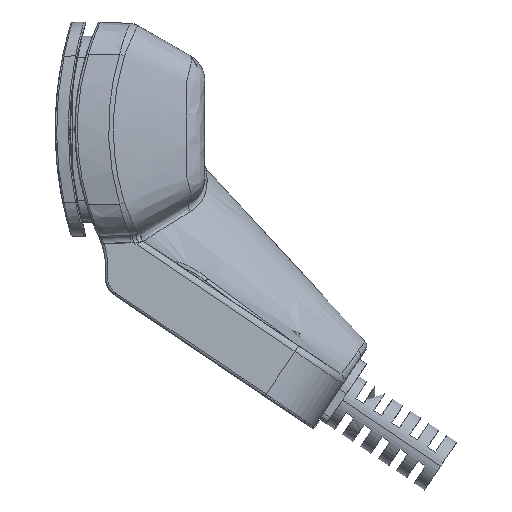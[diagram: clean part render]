
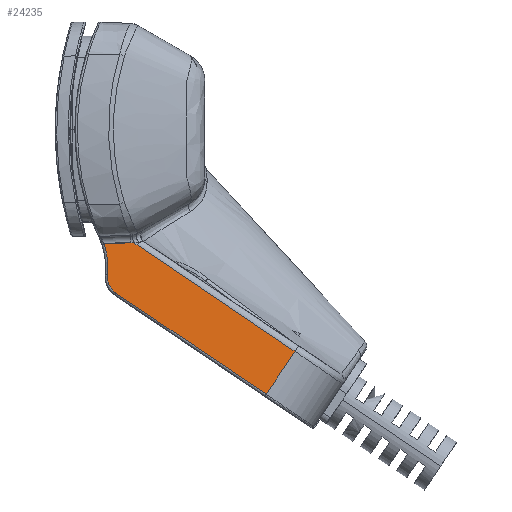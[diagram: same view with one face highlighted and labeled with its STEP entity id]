
A CAD part, left-side view. The second image highlights one B-rep face of the part: STEP entity #24235.
In plain terms, the highlighted planar face has unit normal (-0.997, -0.043, 0.065).
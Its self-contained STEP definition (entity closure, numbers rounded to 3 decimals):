
#1072 = VERTEX_POINT ( 'NONE', #18913 ) ;
#1806 = ORIENTED_EDGE ( 'NONE', *, *, #15729, .T. ) ;
#1976 = VERTEX_POINT ( 'NONE', #38825 ) ;
#3292 = EDGE_CURVE ( 'NONE', #43772, #1072, #6370, .T. ) ;
#3517 = EDGE_CURVE ( 'NONE', #1976, #46646, #48778, .T. ) ;
#4847 = CARTESIAN_POINT ( 'NONE',  ( -42.416, -7.694, -15.406 ) ) ;
#5289 = EDGE_CURVE ( 'NONE', #11825, #43772, #25187, .T. ) ;
#5478 = AXIS2_PLACEMENT_3D ( 'NONE', #56320, #9832, #33566 ) ;
#6160 = CARTESIAN_POINT ( 'NONE',  ( -42.975, -4.836, -22.108 ) ) ;
#6370 = LINE ( 'NONE', #21491, #50970 ) ;
#6697 = CARTESIAN_POINT ( 'NONE',  ( -42.43, -7.851, -15.721 ) ) ;
#9832 = DIRECTION ( 'NONE',  ( 0.997, 0.044, -0.065 ) ) ;
#10369 = CARTESIAN_POINT ( 'NONE',  ( -42.863, -4.511, -20.16 ) ) ;
#10705 = CARTESIAN_POINT ( 'NONE',  ( -42.436, -7.722, -15.726 ) ) ;
#11825 = VERTEX_POINT ( 'NONE', #23547 ) ;
#13620 = ORIENTED_EDGE ( 'NONE', *, *, #3517, .T. ) ;
#15729 = EDGE_CURVE ( 'NONE', #59058, #11825, #24361, .T. ) ;
#17010 = DIRECTION ( 'NONE',  ( 0., -0.829, -0.559 ) ) ;
#17445 = ORIENTED_EDGE ( 'NONE', *, *, #23790, .T. ) ;
#17884 = B_SPLINE_CURVE_WITH_KNOTS ( 'NONE', 3,
 ( #56390, #20368, #6697, #10705 ),
 .UNSPECIFIED., .F., .F.,
 ( 4, 4 ),
 ( 0., 0. ),
 .UNSPECIFIED. ) ;
#18913 = CARTESIAN_POINT ( 'NONE',  ( -42.975, -26.492, -36.715 ) ) ;
#19215 = DIRECTION ( 'NONE',  ( -0.046, 0.998, -0.044 ) ) ;
#19249 = VECTOR ( 'NONE', #19215, 1000. ) ;
#20368 = CARTESIAN_POINT ( 'NONE',  ( -42.423, -7.979, -15.707 ) ) ;
#21491 = CARTESIAN_POINT ( 'NONE',  ( -42.975, -26.492, -36.715 ) ) ;
#22975 = DIRECTION ( 'NONE',  ( 0., 0.829, 0.559 ) ) ;
#23547 = CARTESIAN_POINT ( 'NONE',  ( -42.863, -4.511, -20.16 ) ) ;
#23790 = EDGE_CURVE ( 'NONE', #59269, #23998, #17884, .T. ) ;
#23998 = VERTEX_POINT ( 'NONE', #32374 ) ;
#24184 = ORIENTED_EDGE ( 'NONE', *, *, #24753, .T. ) ;
#24235 = ADVANCED_FACE ( 'NONE', ( #25796 ), #33171, .F. ) ;
#24255 = VECTOR ( 'NONE', #22975, 1000. ) ;
#24361 =( BOUNDED_CURVE ( )  B_SPLINE_CURVE ( 3, ( #41805, #27760, #59724, #36571 ),
 .UNSPECIFIED., .F., .F. ) 
 B_SPLINE_CURVE_WITH_KNOTS ( ( 4, 4 ),
 ( 0.662, 1.082 ),
 .UNSPECIFIED. ) 
 CURVE ( )  GEOMETRIC_REPRESENTATION_ITEM ( )  RATIONAL_B_SPLINE_CURVE ( ( 1., 0.985, 0.985, 1. ) ) 
 REPRESENTATION_ITEM ( '' )  );
#24753 = EDGE_CURVE ( 'NONE', #23998, #59058, #40159, .T. ) ;
#24928 = VECTOR ( 'NONE', #58073, 1000. ) ;
#25187 =( BOUNDED_CURVE ( )  B_SPLINE_CURVE ( 3, ( #10369, #29318, #6160, #28921 ),
 .UNSPECIFIED., .F., .F. ) 
 B_SPLINE_CURVE_WITH_KNOTS ( ( 4, 4 ),
 ( 2.059, 3.142 ),
 .UNSPECIFIED. ) 
 CURVE ( )  GEOMETRIC_REPRESENTATION_ITEM ( )  RATIONAL_B_SPLINE_CURVE ( ( 1., 0.905, 0.905, 1. ) ) 
 REPRESENTATION_ITEM ( '' )  );
#25796 = FACE_OUTER_BOUND ( 'NONE', #43681, .T. ) ;
#25963 = EDGE_CURVE ( 'NONE', #46646, #59269, #30704, .T. ) ;
#26798 = CARTESIAN_POINT ( 'NONE',  ( -42.975, -5.686, -22.682 ) ) ;
#27034 = LINE ( 'NONE', #58261, #24928 ) ;
#27760 = CARTESIAN_POINT ( 'NONE',  ( -42.676, -4.511, -17.269 ) ) ;
#28921 = CARTESIAN_POINT ( 'NONE',  ( -42.975, -5.686, -22.682 ) ) ;
#29078 = ORIENTED_EDGE ( 'NONE', *, *, #55505, .T. ) ;
#29318 = CARTESIAN_POINT ( 'NONE',  ( -42.934, -4.403, -21.18 ) ) ;
#30507 = CARTESIAN_POINT ( 'NONE',  ( -42.416, -8.607, -16.022 ) ) ;
#30704 = LINE ( 'NONE', #4847, #24255 ) ;
#32374 = CARTESIAN_POINT ( 'NONE',  ( -42.436, -7.722, -15.726 ) ) ;
#32914 = CARTESIAN_POINT ( 'NONE',  ( -41.284, -32.497, -14.645 ) ) ;
#33171 = PLANE ( 'NONE',  #5478 ) ;
#33566 = DIRECTION ( 'NONE',  ( 0.065, 0., 0.998 ) ) ;
#33647 = CARTESIAN_POINT ( 'NONE',  ( -42.606, -4.06, -15.886 ) ) ;
#36516 = VECTOR ( 'NONE', #38144, 1000. ) ;
#36571 = CARTESIAN_POINT ( 'NONE',  ( -42.863, -4.511, -20.16 ) ) ;
#37728 = CARTESIAN_POINT ( 'NONE',  ( -42.416, -8.607, -16.022 ) ) ;
#38144 = DIRECTION ( 'NONE',  ( 0., 0.829, 0.559 ) ) ;
#38825 = CARTESIAN_POINT ( 'NONE',  ( -42.416, -30.493, -30.784 ) ) ;
#40159 = LINE ( 'NONE', #32914, #19249 ) ;
#40277 = CARTESIAN_POINT ( 'NONE',  ( -42.416, -8.107, -15.685 ) ) ;
#41805 = CARTESIAN_POINT ( 'NONE',  ( -42.606, -4.06, -15.886 ) ) ;
#42174 = ORIENTED_EDGE ( 'NONE', *, *, #3292, .T. ) ;
#43681 = EDGE_LOOP ( 'NONE', ( #24184, #1806, #57009, #42174, #29078, #13620, #58474, #17445 ) ) ;
#43772 = VERTEX_POINT ( 'NONE', #26798 ) ;
#46646 = VERTEX_POINT ( 'NONE', #30507 ) ;
#48778 = LINE ( 'NONE', #37728, #36516 ) ;
#50970 = VECTOR ( 'NONE', #17010, 1000. ) ;
#55505 = EDGE_CURVE ( 'NONE', #1072, #1976, #27034, .T. ) ;
#56320 = CARTESIAN_POINT ( 'NONE',  ( -43., -33.772, -42.016 ) ) ;
#56390 = CARTESIAN_POINT ( 'NONE',  ( -42.416, -8.107, -15.685 ) ) ;
#57009 = ORIENTED_EDGE ( 'NONE', *, *, #5289, .T. ) ;
#58073 = DIRECTION ( 'NONE',  ( 0.078, -0.557, 0.827 ) ) ;
#58261 = CARTESIAN_POINT ( 'NONE',  ( -42.344, -31.008, -30.019 ) ) ;
#58474 = ORIENTED_EDGE ( 'NONE', *, *, #25963, .T. ) ;
#59058 = VERTEX_POINT ( 'NONE', #33647 ) ;
#59269 = VERTEX_POINT ( 'NONE', #40277 ) ;
#59724 = CARTESIAN_POINT ( 'NONE',  ( -42.763, -4.663, -18.714 ) ) ;
